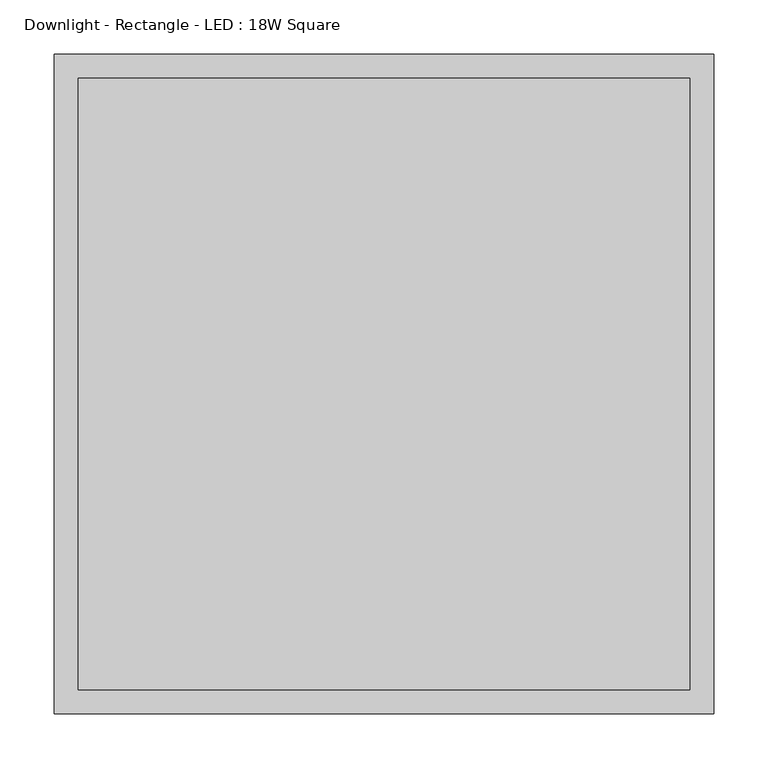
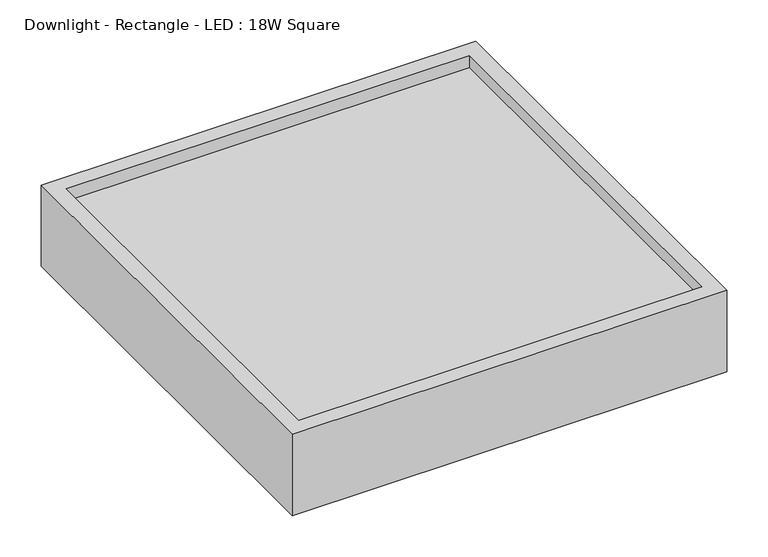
"""IFC4 building model written with IfcOpenShell, lengths in millimetres: light fixture geometry, Downlight - Rectangle - LED : 18W Square."""

from ifc_helpers import new_model, si_unit, frame, origin, place, context, project, spatial, polyline, outline, extrude, faceted_brep, source, transform, mapped, element, save


def downlight_rectangle_led_18w_square_e1bfda4b(model_context):
    return source(origin(), model_context, "Body", "SolidModel", [
        extrude(outline(polyline([(282.575, 282.575), (282.575, -282.575), (-282.575, -282.575), (-282.575, 282.575), (282.575, 282.575)])), frame((0.0, 0.0, 84.7359902), z_axis=(0.0, 0.0, 1.0), x_axis=(1.0, 0.0, 0.0)), (0.0, 0.0, 1.0), 17.9570049),
        faceted_brep([(304.8, 304.8, 120.65), (-304.8, 304.8, 120.65), (-304.8, -304.8, 120.65), (304.8, -304.8, 120.65), (-282.575, 282.575, 120.65), (282.575, 282.575, 120.65), (282.575, -282.575, 120.65), (-282.575, -282.575, 120.65), (304.8, 304.8, 0.0), (304.8, -304.8, 0.0), (-304.8, -304.8, 0.0), (-304.8, 304.8, 0.0), (282.575, 282.575, 17.0719804), (-282.575, 282.575, 17.0719804), (-282.575, -282.575, 17.0719804), (282.575, -282.575, 17.0719804)], [[[0, 1, 2, 3], [4, 5, 6, 7]], [[8, 9, 10, 11]], [[1, 0, 8, 11]], [[2, 1, 11, 10]], [[3, 2, 10, 9]], [[0, 3, 9, 8]], [[12, 13, 14, 15]], [[13, 12, 5, 4]], [[14, 13, 4, 7]], [[15, 14, 7, 6]], [[12, 15, 6, 5]]]),
    ])


if __name__ == "__main__":
    model = new_model("IFC4")
    model_context = context("Model", 3, world=origin())
    ifc_project = project(units=[si_unit("LENGTHUNIT", "METRE", prefix="MILLI")], contexts=[model_context])
    site = spatial("IfcSite", under=ifc_project)
    building = spatial("IfcBuilding", under=site)
    placement = place(None, origin())
    downlight_rectangle_led_18w_square_shape = downlight_rectangle_led_18w_square_e1bfda4b(model_context)
    element("IfcLightFixture", 1, ObjectType="Downlight - Rectangle - LED : 18W Square", at=placement, inside=building, context=model_context, shape_type="MappedRepresentation", body=[
        mapped(downlight_rectangle_led_18w_square_shape, transform((0.0, 0.0, 0.0), x_axis=(1.0, 0.0, 0.0), y_axis=(0.0, 1.0, 0.0), z_axis=(0.0, 0.0, 1.0))),
    ])
    save(model, "model.ifc")
